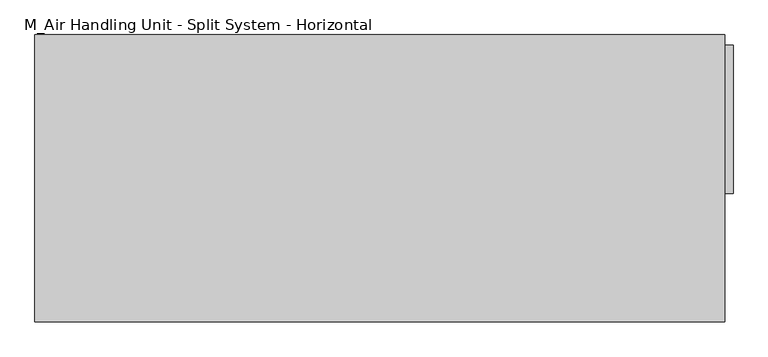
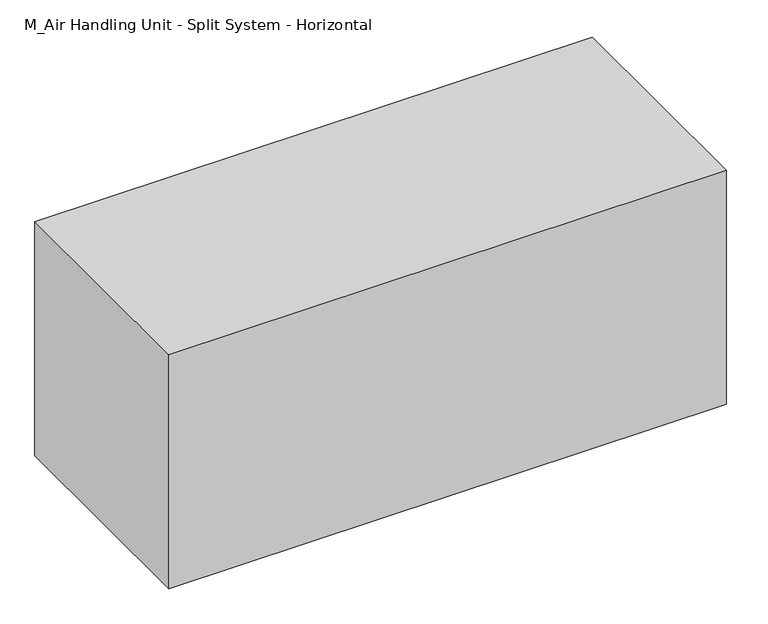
"""IFC4 building model written with IfcOpenShell, lengths in millimetres: proxy geometry, M_Air Handling Unit - Split System - Horizontal : 31600000 J."""

from ifc_helpers import new_model, si_unit, frame, origin, origin_with_axes, place, context, project, spatial, polyline, outline, extrude, source, transform, mapped, element, save


def m_air_handling_unit_split_system_horizontal_75b14070(model_context):
    return source(origin(), model_context, "Body", "SweptSolid", [
        extrude(outline(polyline([(1296.0, 241.55), (1296.0, 520.95), (1311.875, 520.95), (1311.875, 241.55), (1296.0, 241.55)])), frame((0.0, 0.0, 32.5), z_axis=(0.0, 0.0, 1.0), x_axis=(1.0, 0.0, 0.0)), (0.0, 0.0, 1.0), 510.0),
        extrude(outline(polyline([(1296.0, 540.0), (1296.0, 0.0), (0.0, 0.0), (0.0, 540.0), (1296.0, 540.0)])), origin_with_axes(), (0.0, 0.0, 1.0), 575.0),
    ])


if __name__ == "__main__":
    model = new_model("IFC4")
    model_context = context("Model", 3, world=origin())
    ifc_project = project(units=[si_unit("LENGTHUNIT", "METRE", prefix="MILLI")], contexts=[model_context])
    site = spatial("IfcSite", under=ifc_project)
    building = spatial("IfcBuilding", under=site)
    placement = place(None, origin())
    m_air_handling_unit_split_system_horizontal_shape = m_air_handling_unit_split_system_horizontal_75b14070(model_context)
    element("IfcBuildingElementProxy", 1, Name="M_Air Handling Unit - Split System - Horizontal : 31600000 J", ObjectType="M_Air Handling Unit - Split System - Horizontal : 31600000 J", at=placement, inside=building, context=model_context, shape_type="MappedRepresentation", body=[
        mapped(m_air_handling_unit_split_system_horizontal_shape, transform((0.0, 0.0, 0.0), x_axis=(1.0, 0.0, 0.0), y_axis=(0.0, 1.0, 0.0), z_axis=(0.0, 0.0, 1.0))),
    ])
    save(model, "model.ifc")
